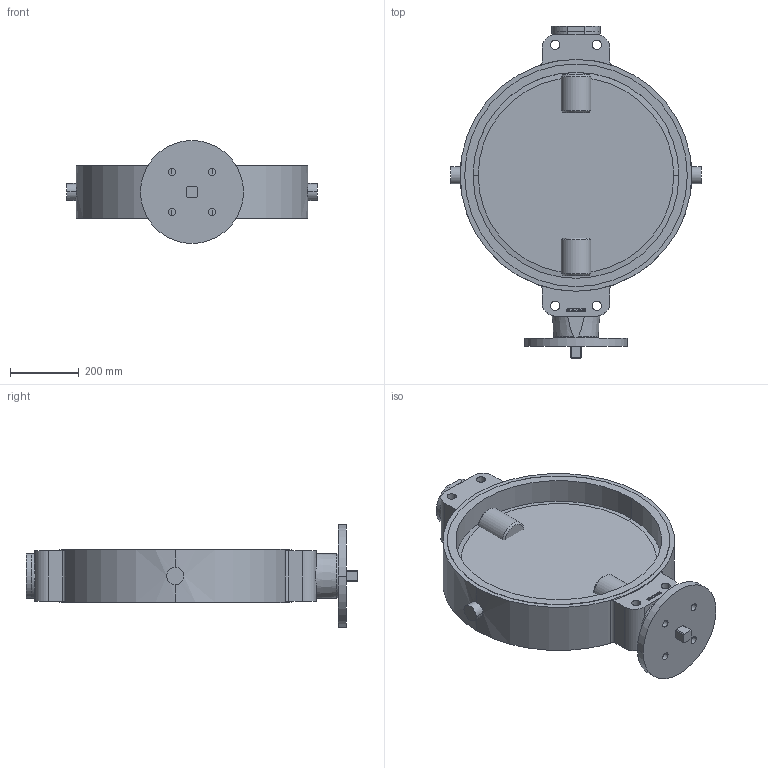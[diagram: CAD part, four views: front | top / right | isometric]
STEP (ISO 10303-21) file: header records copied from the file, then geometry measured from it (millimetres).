
FILE_DESCRIPTION((''),'2;1');
FILE_NAME('KL000112.stp','2007-11-19T12:01:37',(''),(''),'Mechanical Desktop 2008','Mechanical Desktop 2008',', , ');
FILE_SCHEMA(('AUTOMOTIVE_DESIGN { 1 2 10303 214 1 1 1 1 }'));
Length unit declared in the file: millimetre
Products named in the file (1): KL000112A
Bounding box: 730 x 967 x 300 mm (x, y, z)
Volume: 23964708 mm3; surface area: 2462797.3 mm2
Topology: 22 solids, 22 shells, 344 faces, 882 edges, 584 vertices
Faces by surface type: plane 191, cylinder 130, bspline 15, cone 8
Entity records: 11042 total; most frequent: CARTESIAN_POINT 2377, DIRECTION 1814, ORIENTED_EDGE 1764, EDGE_CURVE 882, AXIS2_PLACEMENT_3D 617, VERTEX_POINT 584, VECTOR 580, LINE 580
